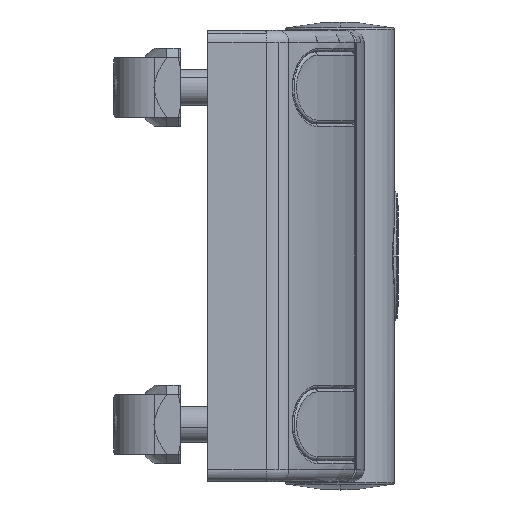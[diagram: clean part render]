
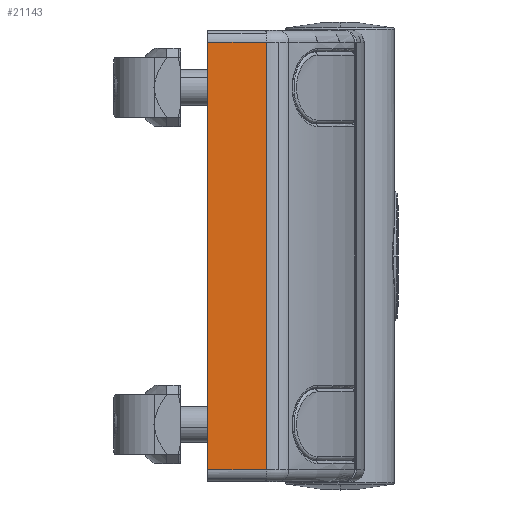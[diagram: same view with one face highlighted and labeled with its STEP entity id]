
A CAD part, left-side view. The second image highlights one B-rep face of the part: STEP entity #21143.
In plain terms, the highlighted planar face has unit normal (-0.999, -0.052, 0).
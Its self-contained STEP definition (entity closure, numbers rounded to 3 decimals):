
#406 = CARTESIAN_POINT ( 'NONE',  ( -12.689, -9.753, 63.5 ) ) ;
#593 = EDGE_CURVE ( 'NONE', #51111, #26570, #27070, .T. ) ;
#2074 = VERTEX_POINT ( 'NONE', #406 ) ;
#3037 = PLANE ( 'NONE',  #22912 ) ;
#3330 = CARTESIAN_POINT ( 'NONE',  ( -12.689, -9.753, 28. ) ) ;
#3840 = FACE_OUTER_BOUND ( 'NONE', #27362, .T. ) ;
#4075 = EDGE_CURVE ( 'NONE', #51111, #2074, #30091, .T. ) ;
#5494 = CARTESIAN_POINT ( 'NONE',  ( -13.2, 0., 28. ) ) ;
#8224 = CARTESIAN_POINT ( 'NONE',  ( -13.2, 0., 28. ) ) ;
#12866 = ORIENTED_EDGE ( 'NONE', *, *, #36725, .F. ) ;
#13220 = CARTESIAN_POINT ( 'NONE',  ( -12.972, -4.355, 63.5 ) ) ;
#14955 = LINE ( 'NONE', #3330, #33420 ) ;
#16393 = CARTESIAN_POINT ( 'NONE',  ( -12.689, -9.753, -7.5 ) ) ;
#19169 = ORIENTED_EDGE ( 'NONE', *, *, #593, .T. ) ;
#19870 = CARTESIAN_POINT ( 'NONE',  ( -12.972, -4.355, -7.5 ) ) ;
#19877 = DIRECTION ( 'NONE',  ( -0.999, -0.052, 0. ) ) ;
#21143 = ADVANCED_FACE ( 'NONE', ( #3840 ), #3037, .T. ) ;
#22393 = DIRECTION ( 'NONE',  ( 0., 0., -1. ) ) ;
#22912 = AXIS2_PLACEMENT_3D ( 'NONE', #8224, #19877, #25140 ) ;
#23532 = VECTOR ( 'NONE', #22393, 1000. ) ;
#25140 = DIRECTION ( 'NONE',  ( -0.052, 0.999, 0. ) ) ;
#26570 = VERTEX_POINT ( 'NONE', #45687 ) ;
#27070 = LINE ( 'NONE', #5494, #23532 ) ;
#27362 = EDGE_LOOP ( 'NONE', ( #45852, #19169, #34381, #12866 ) ) ;
#28173 = DIRECTION ( 'NONE',  ( -0.052, 0.999, 0. ) ) ;
#30091 = LINE ( 'NONE', #13220, #43512 ) ;
#31022 = EDGE_CURVE ( 'NONE', #42094, #26570, #44690, .T. ) ;
#33120 = DIRECTION ( 'NONE',  ( 0.052, -0.999, 0. ) ) ;
#33420 = VECTOR ( 'NONE', #36205, 1000. ) ;
#34381 = ORIENTED_EDGE ( 'NONE', *, *, #31022, .F. ) ;
#36205 = DIRECTION ( 'NONE',  ( 0., 0., -1. ) ) ;
#36725 = EDGE_CURVE ( 'NONE', #2074, #42094, #14955, .T. ) ;
#42094 = VERTEX_POINT ( 'NONE', #16393 ) ;
#43512 = VECTOR ( 'NONE', #33120, 1000. ) ;
#44690 = LINE ( 'NONE', #19870, #45667 ) ;
#45667 = VECTOR ( 'NONE', #28173, 1000. ) ;
#45687 = CARTESIAN_POINT ( 'NONE',  ( -13.2, 0., -7.5 ) ) ;
#45852 = ORIENTED_EDGE ( 'NONE', *, *, #4075, .F. ) ;
#51111 = VERTEX_POINT ( 'NONE', #53811 ) ;
#53811 = CARTESIAN_POINT ( 'NONE',  ( -13.2, 0., 63.5 ) ) ;
